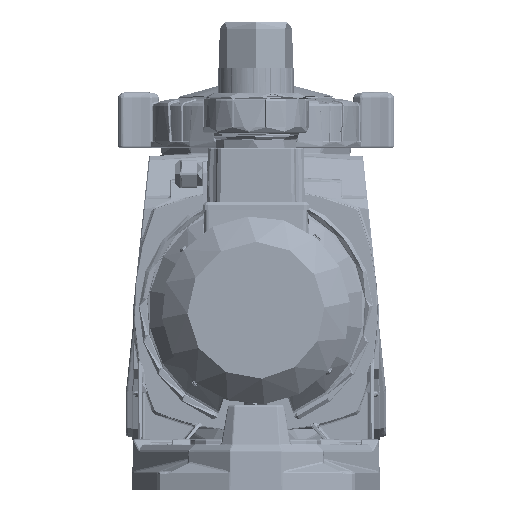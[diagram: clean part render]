
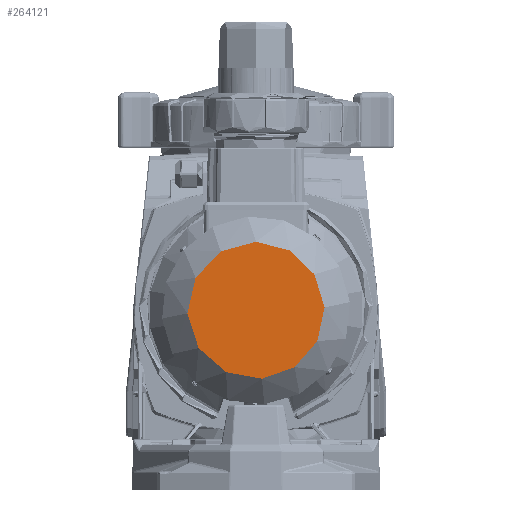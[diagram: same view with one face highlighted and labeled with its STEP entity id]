
A CAD part, front view. The second image highlights one B-rep face of the part: STEP entity #264121.
In plain terms, the highlighted planar face has unit normal (0, -1, 0).
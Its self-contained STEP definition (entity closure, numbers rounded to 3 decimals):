
#129316=ORIENTED_EDGE('',*,*,#174452,.F.);
#174452=EDGE_CURVE('',#200328,#200328,#209042,.T.);
#200328=VERTEX_POINT('',#681355);
#209042=CIRCLE('',#357413,58.08);
#225763=EDGE_LOOP('',(#129316));
#243386=FACE_BOUND('',#225763,.T.);
#248993=PLANE('',#357412);
#264121=ADVANCED_FACE('',(#243386),#248993,.F.);
#357412=AXIS2_PLACEMENT_3D('',#681353,#409641,#409642);
#357413=AXIS2_PLACEMENT_3D('',#681354,#409643,#409644);
#409641=DIRECTION('',(0.,1.,0.));
#409642=DIRECTION('',(0.,0.,1.));
#409643=DIRECTION('',(0.,1.,0.));
#409644=DIRECTION('',(0.,0.,1.));
#681353=CARTESIAN_POINT('',(-58.08,-115.974,273.141));
#681354=CARTESIAN_POINT('',(0.,-115.974,0.));
#681355=CARTESIAN_POINT('',(0.,-115.974,58.08));
